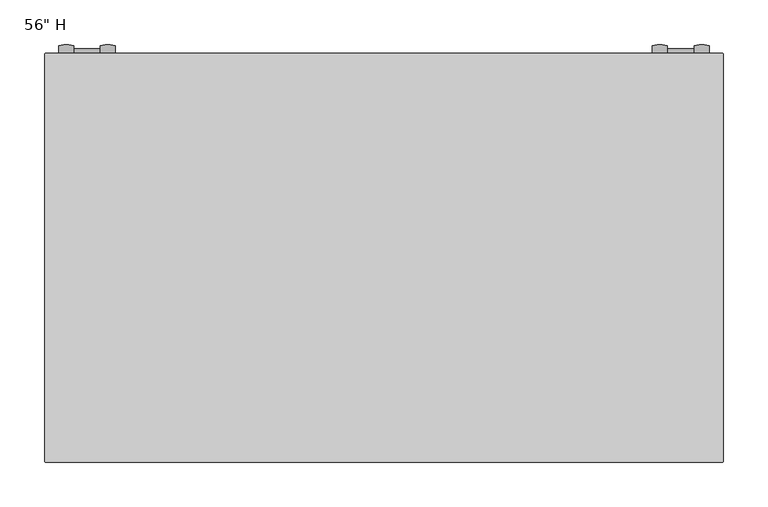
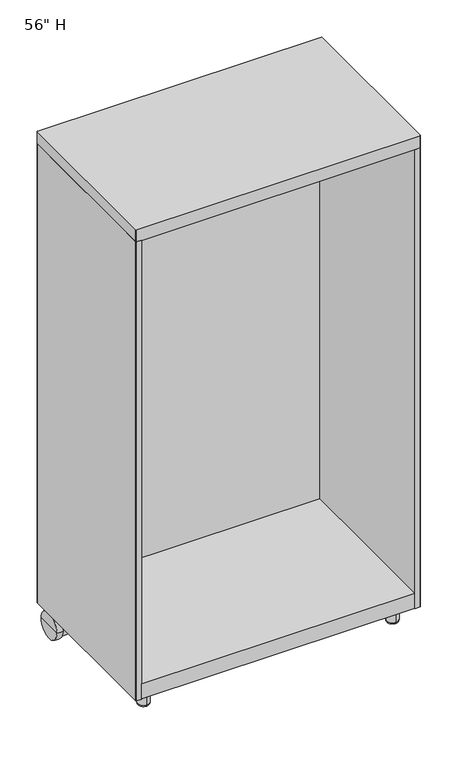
"""IFC4 building model written with IfcOpenShell, lengths in millimetres: furniture geometry."""

from ifc_helpers import new_model, si_unit, point, frame, frame_2d, origin, place, context, project, spatial, polyline, circle_curve, ellipse_curve, trimmed, segment, composite_curve, outline, extrude, source, transform, mapped, element, save
from ifc_brep_helpers import plane_surface, cylinder_surface, revolved_surface, advanced_brep


def furniture_f87ea544(model_context):
    return source(origin(), model_context, "Body", "SolidModel", [
        advanced_brep(
        [(-301.463296, -63.6717048, 37.3595315), (-301.463296, 8.8097722, 37.3595315), (-301.463296, -27.4309663, 37.3595315), (-318.2202446, -63.6717048, 37.3595315), (-318.2202446, 8.8097722, 37.3595315), (-318.2202446, -60.4950092, 37.3595315), (-318.2202446, 5.6330766, 37.3595315), (-348.2146314, -60.4950092, 37.3595315), (-348.2146314, 5.6330766, 37.3595315), (-348.2146314, -63.6717048, 37.3595315), (-348.2146314, 8.8097722, 37.3595315), (-364.9632967, -63.6717048, 37.3595315), (-364.9632967, 8.8097722, 37.3595315), (-364.9632967, -27.4309663, 37.3595315)],
        [
            (0, 1, circle_curve(frame((-301.463296, -27.4309663, 37.3595315), z_axis=(1.0, 0.0, 0.0), x_axis=(0.0, 1.0, 0.0)), 36.2407385)),
            (1, 2),
            (2, 0),
            (1, 0, circle_curve(frame((-301.463296, -27.4309663, 37.3595315), z_axis=(1.0, 0.0, 0.0), x_axis=(0.0, 1.0, 0.0)), 36.2407385)),
            (3, 4, circle_curve(frame((-318.2202446, -27.4309663, 37.3595315), z_axis=(1.0, 0.0, 0.0), x_axis=(0.0, 1.0, 0.0)), 36.2407385)),
            (4, 1, circle_curve(frame((-309.8417703, -18.4450572, 37.3595315), z_axis=(0.0, 0.0, -1.0), x_axis=(-1.0, 0.0, 0.0)), 28.5135855)),
            (0, 3, circle_curve(frame((-309.8417703, -36.4168754, 37.3595315), z_axis=(0.0, 0.0, -1.0), x_axis=(-1.0, 0.0, 0.0)), 28.5135855)),
            (4, 3, circle_curve(frame((-318.2202446, -27.4309663, 37.3595315), z_axis=(1.0, 0.0, 0.0), x_axis=(0.0, 1.0, 0.0)), 36.2407385)),
            (5, 6, circle_curve(frame((-318.2202446, -27.4309663, 37.3595315), z_axis=(1.0, 0.0, 0.0), x_axis=(0.0, 1.0, 0.0)), 33.0640429)),
            (6, 4),
            (3, 5),
            (6, 5, circle_curve(frame((-318.2202446, -27.4309663, 37.3595315), z_axis=(1.0, 0.0, 0.0), x_axis=(0.0, 1.0, 0.0)), 33.0640429)),
            (7, 8, circle_curve(frame((-348.2146314, -27.4309663, 37.3595315), z_axis=(1.0, 0.0, 0.0), x_axis=(0.0, 1.0, 0.0)), 33.0640429)),
            (8, 6),
            (5, 7),
            (8, 7, circle_curve(frame((-348.2146314, -27.4309663, 37.3595315), z_axis=(1.0, 0.0, 0.0), x_axis=(0.0, 1.0, 0.0)), 33.0640429)),
            (9, 10, circle_curve(frame((-348.2146314, -27.4309663, 37.3595315), z_axis=(1.0, 0.0, 0.0), x_axis=(0.0, 1.0, 0.0)), 36.2407385)),
            (10, 8),
            (7, 9),
            (10, 9, circle_curve(frame((-348.2146314, -27.4309663, 37.3595315), z_axis=(1.0, 0.0, 0.0), x_axis=(0.0, 1.0, 0.0)), 36.2407385)),
            (11, 12, circle_curve(frame((-364.9632967, -27.4309663, 37.3595315), z_axis=(1.0, 0.0, 0.0), x_axis=(0.0, 1.0, 0.0)), 36.2407385)),
            (12, 10, circle_curve(frame((-356.5889641, -18.4035167, 37.3595315), z_axis=(0.0, 0.0, -1.0), x_axis=(-1.0, 0.0, 0.0)), 28.472663)),
            (9, 11, circle_curve(frame((-356.5889641, -36.4584159, 37.3595315), z_axis=(0.0, 0.0, -1.0), x_axis=(-1.0, 0.0, 0.0)), 28.472663)),
            (12, 11, circle_curve(frame((-364.9632967, -27.4309663, 37.3595315), z_axis=(1.0, 0.0, 0.0), x_axis=(0.0, 1.0, 0.0)), 36.2407385)),
            (13, 12),
            (11, 13),
        ],
        [
            plane_surface(frame((-301.463296, -27.4309663, 37.3595315), z_axis=(1.0, 0.0, 0.0), x_axis=(0.0, 1.0, 0.0))),
            revolved_surface(trimmed(ellipse_curve(frame((-309.8417703, -18.4450572, 37.3595315), z_axis=(0.0, 0.0, 1.0), x_axis=(-1.0, 0.0, 0.0)), 28.5135855, 28.5135855), [point((-301.463296, 8.8097722, 37.3595315))], [point((-318.2202446, 8.8097722, 37.3595315))], True, "CARTESIAN"), (-325.591828, -27.4309663, 37.3595315), (-1.0, 0.0, 0.0)),
            plane_surface(frame((-318.2202446, -27.4309663, 37.3595315), z_axis=(-1.0, 0.0, 0.0), x_axis=(0.0, 1.0, 0.0))),
            cylinder_surface(frame((-325.591828, -27.4309663, 37.3595315), z_axis=(-1.0, 0.0, 0.0), x_axis=(0.0, 1.0, 0.0)), 33.0640429),
            plane_surface(frame((-348.2146314, -27.4309663, 37.3595315), z_axis=(1.0, 0.0, 0.0), x_axis=(0.0, 1.0, 0.0))),
            revolved_surface(trimmed(ellipse_curve(frame((-356.5889641, -18.4035167, 37.3595315), z_axis=(0.0, 0.0, 1.0), x_axis=(-1.0, 0.0, 0.0)), 28.472663, 28.472663), [point((-348.2146314, 8.8097722, 37.3595315))], [point((-364.9632967, 8.8097722, 37.3595315))], True, "CARTESIAN"), (-325.591828, -27.4309663, 37.3595315), (-1.0, 0.0, 0.0)),
            plane_surface(frame((-364.9632967, -27.4309663, 37.3595315), z_axis=(-1.0, 0.0, 0.0), x_axis=(0.0, 1.0, 0.0))),
        ],
        [
            (0, [[1, 2, 3]]),
            (0, [[4, -3, -2]]),
            (1, [[5, 6, -1, 7]]),
            (1, [[8, -7, -4, -6]]),
            (2, [[9, 10, -5, 11]]),
            (2, [[12, -11, -8, -10]]),
            (3, [[13, 14, -9, 15]]),
            (3, [[16, -15, -12, -14]]),
            (4, [[17, 18, -13, 19]]),
            (4, [[20, -19, -16, -18]]),
            (5, [[21, 22, -17, 23]]),
            (5, [[24, -23, -20, -22]]),
            (6, [[25, -21, 26]]),
            (6, [[-26, -24, -25]]),
        ],
    ),
        advanced_brep(
        [(364.7809449, -63.6717048, 37.3595315), (364.7809449, 8.8097722, 37.3595315), (364.7809449, -27.4309663, 37.3595315), (348.0239963, -63.6717048, 37.3595315), (348.0239963, 8.8097722, 37.3595315), (348.0239963, -60.4950092, 37.3595315), (348.0239963, 5.6330766, 37.3595315), (318.0296095, -60.4950092, 37.3595315), (318.0296095, 5.6330766, 37.3595315), (318.0296095, -63.6717048, 37.3595315), (318.0296095, 8.8097722, 37.3595315), (301.2809442, -63.6717048, 37.3595315), (301.2809442, 8.8097722, 37.3595315), (301.2809442, -27.4309663, 37.3595315)],
        [
            (0, 1, circle_curve(frame((364.7809449, -27.4309663, 37.3595315), z_axis=(1.0, 0.0, 0.0), x_axis=(0.0, 1.0, 0.0)), 36.2407385)),
            (1, 2),
            (2, 0),
            (1, 0, circle_curve(frame((364.7809449, -27.4309663, 37.3595315), z_axis=(1.0, 0.0, 0.0), x_axis=(0.0, 1.0, 0.0)), 36.2407385)),
            (3, 4, circle_curve(frame((348.0239963, -27.4309663, 37.3595315), z_axis=(1.0, 0.0, 0.0), x_axis=(0.0, 1.0, 0.0)), 36.2407385)),
            (4, 1, circle_curve(frame((356.4024706, -18.4450572, 37.3595315), z_axis=(0.0, 0.0, -1.0), x_axis=(-1.0, 0.0, 0.0)), 28.5135855)),
            (0, 3, circle_curve(frame((356.4024706, -36.4168754, 37.3595315), z_axis=(0.0, 0.0, -1.0), x_axis=(-1.0, 0.0, 0.0)), 28.5135855)),
            (4, 3, circle_curve(frame((348.0239963, -27.4309663, 37.3595315), z_axis=(1.0, 0.0, 0.0), x_axis=(0.0, 1.0, 0.0)), 36.2407385)),
            (5, 6, circle_curve(frame((348.0239963, -27.4309663, 37.3595315), z_axis=(1.0, 0.0, 0.0), x_axis=(0.0, 1.0, 0.0)), 33.0640429)),
            (6, 4),
            (3, 5),
            (6, 5, circle_curve(frame((348.0239963, -27.4309663, 37.3595315), z_axis=(1.0, 0.0, 0.0), x_axis=(0.0, 1.0, 0.0)), 33.0640429)),
            (7, 8, circle_curve(frame((318.0296095, -27.4309663, 37.3595315), z_axis=(1.0, 0.0, 0.0), x_axis=(0.0, 1.0, 0.0)), 33.0640429)),
            (8, 6),
            (5, 7),
            (8, 7, circle_curve(frame((318.0296095, -27.4309663, 37.3595315), z_axis=(1.0, 0.0, 0.0), x_axis=(0.0, 1.0, 0.0)), 33.0640429)),
            (9, 10, circle_curve(frame((318.0296095, -27.4309663, 37.3595315), z_axis=(1.0, 0.0, 0.0), x_axis=(0.0, 1.0, 0.0)), 36.2407385)),
            (10, 8),
            (7, 9),
            (10, 9, circle_curve(frame((318.0296095, -27.4309663, 37.3595315), z_axis=(1.0, 0.0, 0.0), x_axis=(0.0, 1.0, 0.0)), 36.2407385)),
            (11, 12, circle_curve(frame((301.2809442, -27.4309663, 37.3595315), z_axis=(1.0, 0.0, 0.0), x_axis=(0.0, 1.0, 0.0)), 36.2407385)),
            (12, 10, circle_curve(frame((309.6552768, -18.4035167, 37.3595315), z_axis=(0.0, 0.0, -1.0), x_axis=(-1.0, 0.0, 0.0)), 28.472663)),
            (9, 11, circle_curve(frame((309.6552768, -36.4584159, 37.3595315), z_axis=(0.0, 0.0, -1.0), x_axis=(-1.0, 0.0, 0.0)), 28.472663)),
            (12, 11, circle_curve(frame((301.2809442, -27.4309663, 37.3595315), z_axis=(1.0, 0.0, 0.0), x_axis=(0.0, 1.0, 0.0)), 36.2407385)),
            (13, 12),
            (11, 13),
        ],
        [
            plane_surface(frame((364.7809449, -27.4309663, 37.3595315), z_axis=(1.0, 0.0, 0.0), x_axis=(0.0, 1.0, 0.0))),
            revolved_surface(trimmed(ellipse_curve(frame((356.4024706, -18.4450572, 37.3595315), z_axis=(0.0, 0.0, 1.0), x_axis=(-1.0, 0.0, 0.0)), 28.5135855, 28.5135855), [point((364.7809449, 8.8097722, 37.3595315))], [point((348.0239963, 8.8097722, 37.3595315))], True, "CARTESIAN"), (340.6524129, -27.4309663, 37.3595315), (-1.0, 0.0, 0.0)),
            plane_surface(frame((348.0239963, -27.4309663, 37.3595315), z_axis=(-1.0, 0.0, 0.0), x_axis=(0.0, 1.0, 0.0))),
            cylinder_surface(frame((340.6524129, -27.4309663, 37.3595315), z_axis=(-1.0, 0.0, 0.0), x_axis=(0.0, 1.0, 0.0)), 33.0640429),
            plane_surface(frame((318.0296095, -27.4309663, 37.3595315), z_axis=(1.0, 0.0, 0.0), x_axis=(0.0, 1.0, 0.0))),
            revolved_surface(trimmed(ellipse_curve(frame((309.6552768, -18.4035167, 37.3595315), z_axis=(0.0, 0.0, 1.0), x_axis=(-1.0, 0.0, 0.0)), 28.472663, 28.472663), [point((318.0296095, 8.8097722, 37.3595315))], [point((301.2809442, 8.8097722, 37.3595315))], True, "CARTESIAN"), (340.6524129, -27.4309663, 37.3595315), (-1.0, 0.0, 0.0)),
            plane_surface(frame((301.2809442, -27.4309663, 37.3595315), z_axis=(-1.0, 0.0, 0.0), x_axis=(0.0, 1.0, 0.0))),
        ],
        [
            (0, [[1, 2, 3]]),
            (0, [[4, -3, -2]]),
            (1, [[5, 6, -1, 7]]),
            (1, [[8, -7, -4, -6]]),
            (2, [[9, 10, -5, 11]]),
            (2, [[12, -11, -8, -10]]),
            (3, [[13, 14, -9, 15]]),
            (3, [[16, -15, -12, -14]]),
            (4, [[17, 18, -13, 19]]),
            (4, [[20, -19, -16, -18]]),
            (5, [[21, 22, -17, 23]]),
            (5, [[24, -23, -20, -22]]),
            (6, [[25, -21, 26]]),
            (6, [[-26, -24, -25]]),
        ],
    ),
        extrude(outline(composite_curve([segment(polyline([(365.1997396, -458.7406421), (365.1997396, 0.0), (379.9085915, 0.0)]), True, "CONTINUOUS"), segment(trimmed(circle_curve(frame_2d((379.9085915, -1.0914085)), 1.0914085), [point((379.9085915, 0.0))], [point((381.0, -1.0914085))], False, "CARTESIAN"), True, "CONTINUOUS"), segment(polyline([(381.0, -1.0914085), (381.0, -457.3468103)]), True, "CONTINUOUS"), segment(trimmed(circle_curve(frame_2d((379.6061682, -457.3468103)), 1.3938318), [point((381.0, -457.3468103))], [point((379.6061682, -458.7406421))], False, "CARTESIAN"), True, "CONTINUOUS"), segment(polyline([(379.6061682, -458.7406421), (365.1997396, -458.7406421)]), True, "CONTINUOUS")], self_intersect=False)), frame((0.0, 0.0, 90.857372), z_axis=(0.0, 0.0, 1.0), x_axis=(1.0, 0.0, 0.0)), (0.0, 0.0, 1.0), 1296.7641524),
        extrude(outline(composite_curve([segment(polyline([(-312.5986224, -440.6568405), (-353.0338836, -440.6568405)]), True, "CONTINUOUS"), segment(trimmed(circle_curve(frame_2d((-353.0338836, -429.7973814)), 10.8594591), [point((-353.0338836, -440.6568405))], [point((-363.8933426, -429.7973814))], False, "CARTESIAN"), True, "CONTINUOUS"), segment(polyline([(-363.8933426, -429.7973814), (-363.8933426, -393.0796464)]), True, "CONTINUOUS"), segment(trimmed(circle_curve(frame_2d((-351.1933426, -393.0796464)), 12.7), [point((-363.8933426, -393.0796464))], [point((-351.1933426, -380.3796464))], False, "CARTESIAN"), True, "CONTINUOUS"), segment(polyline([(-351.1933426, -380.3796464), (-316.1278694, -380.3796464)]), True, "CONTINUOUS"), segment(trimmed(circle_curve(frame_2d((-316.1278694, -393.0796464)), 12.7), [point((-316.1278694, -380.3796464))], [point((-303.4278694, -393.0796464))], False, "CARTESIAN"), True, "CONTINUOUS"), segment(polyline([(-303.4278694, -393.0796464), (-303.4278694, -431.4860874)]), True, "CONTINUOUS"), segment(trimmed(circle_curve(frame_2d((-312.5986224, -431.4860874)), 9.1707531), [point((-303.4278694, -431.4860874))], [point((-312.5986224, -440.6568405))], False, "CARTESIAN"), True, "CONTINUOUS")], self_intersect=False)), frame((0.0, 0.0, 88.0012691), z_axis=(0.0, 0.0, 1.0), x_axis=(1.0, 0.0, 0.0)), (0.0, 0.0, 1.0), 2.8561029),
        advanced_brep(
        [(-333.4021566, -395.1035296, 88.0012691), (-333.4021566, -426.3711705, 88.0012691), (-333.4021566, -410.7373501, 88.0012691), (-333.4021566, -401.4692087, 84.1912637), (-333.4021566, -420.0054914, 84.1912637), (-333.4021566, -403.7726725, 84.1912637), (-333.4021566, -417.7020276, 84.1912637), (-333.4021566, -403.7726725, 79.898675), (-333.4021566, -417.7020276, 79.898675), (-333.4021566, -407.1686498, 79.898675), (-333.4021566, -414.3060503, 79.898675), (-333.4021566, -407.1686498, 78.8669248), (-333.4021566, -414.3060503, 78.8669248), (-333.4021566, -395.1035296, 78.8669248), (-333.4021566, -426.3711705, 78.8669248), (-333.4021566, -395.1035296, 43.7095315), (-333.4021566, -426.3711705, 43.7095315), (-333.4021566, -401.4535296, 37.3595315), (-333.4021566, -420.0211705, 37.3595315), (-333.4021566, -410.7373501, 37.3595315)],
        [
            (0, 1, circle_curve(frame((-333.4021566, -410.7373501, 88.0012691), z_axis=(0.0, 0.0, 1.0), x_axis=(0.0, -1.0, 0.0)), 15.6338204)),
            (1, 2),
            (2, 0),
            (1, 0, circle_curve(frame((-333.4021566, -410.7373501, 88.0012691), z_axis=(0.0, 0.0, 1.0), x_axis=(0.0, -1.0, 0.0)), 15.6338204)),
            (3, 4, circle_curve(frame((-333.4021566, -410.7373501, 84.1912637), z_axis=(0.0, 0.0, 1.0), x_axis=(0.0, -1.0, 0.0)), 9.2681413)),
            (4, 1),
            (0, 3),
            (4, 3, circle_curve(frame((-333.4021566, -410.7373501, 84.1912637), z_axis=(0.0, 0.0, 1.0), x_axis=(0.0, -1.0, 0.0)), 9.2681413)),
            (5, 6, circle_curve(frame((-333.4021566, -410.7373501, 84.1912637), z_axis=(0.0, 0.0, 1.0), x_axis=(0.0, -1.0, 0.0)), 6.9646775)),
            (6, 4),
            (3, 5),
            (6, 5, circle_curve(frame((-333.4021566, -410.7373501, 84.1912637), z_axis=(0.0, 0.0, 1.0), x_axis=(0.0, -1.0, 0.0)), 6.9646775)),
            (7, 8, circle_curve(frame((-333.4021566, -410.7373501, 79.898675), z_axis=(0.0, 0.0, 1.0), x_axis=(0.0, -1.0, 0.0)), 6.9646775)),
            (8, 6, circle_curve(frame((-333.4021566, -415.6994524, 82.0449694), z_axis=(-1.0, 0.0, 0.0), x_axis=(0.0, 1.0, 0.0)), 2.9354534)),
            (5, 7, circle_curve(frame((-333.4021566, -405.7752478, 82.0449694), z_axis=(-1.0, 0.0, 0.0), x_axis=(0.0, -1.0, 0.0)), 2.9354534)),
            (8, 7, circle_curve(frame((-333.4021566, -410.7373501, 79.898675), z_axis=(0.0, 0.0, 1.0), x_axis=(0.0, -1.0, 0.0)), 6.9646775)),
            (9, 10, circle_curve(frame((-333.4021566, -410.7373501, 79.898675), z_axis=(0.0, 0.0, 1.0), x_axis=(0.0, -1.0, 0.0)), 3.5687002)),
            (10, 8),
            (7, 9),
            (10, 9, circle_curve(frame((-333.4021566, -410.7373501, 79.898675), z_axis=(0.0, 0.0, 1.0), x_axis=(0.0, -1.0, 0.0)), 3.5687002)),
            (11, 12, circle_curve(frame((-333.4021566, -410.7373501, 78.8669248), z_axis=(0.0, 0.0, 1.0), x_axis=(0.0, -1.0, 0.0)), 3.5687002)),
            (12, 10),
            (9, 11),
            (12, 11, circle_curve(frame((-333.4021566, -410.7373501, 78.8669248), z_axis=(0.0, 0.0, 1.0), x_axis=(0.0, -1.0, 0.0)), 3.5687002)),
            (13, 14, circle_curve(frame((-333.4021566, -410.7373501, 78.8669248), z_axis=(0.0, 0.0, 1.0), x_axis=(0.0, -1.0, 0.0)), 15.6338204)),
            (14, 12),
            (11, 13),
            (14, 13, circle_curve(frame((-333.4021566, -410.7373501, 78.8669248), z_axis=(0.0, 0.0, 1.0), x_axis=(0.0, -1.0, 0.0)), 15.6338204)),
            (15, 16, circle_curve(frame((-333.4021566, -410.7373501, 43.7095315), z_axis=(0.0, 0.0, 1.0), x_axis=(0.0, -1.0, 0.0)), 15.6338204)),
            (16, 14),
            (13, 15),
            (16, 15, circle_curve(frame((-333.4021566, -410.7373501, 43.7095315), z_axis=(0.0, 0.0, 1.0), x_axis=(0.0, -1.0, 0.0)), 15.6338204)),
            (17, 18, circle_curve(frame((-333.4021566, -410.7373501, 37.3595315), z_axis=(0.0, 0.0, 1.0), x_axis=(0.0, -1.0, 0.0)), 9.2838204)),
            (18, 16, circle_curve(frame((-333.4021566, -420.0211705, 43.7095315), z_axis=(-1.0, 0.0, 0.0), x_axis=(0.0, 1.0, 0.0)), 6.35)),
            (15, 17, circle_curve(frame((-333.4021566, -401.4535296, 43.7095315), z_axis=(-1.0, 0.0, 0.0), x_axis=(0.0, -1.0, 0.0)), 6.35)),
            (18, 17, circle_curve(frame((-333.4021566, -410.7373501, 37.3595315), z_axis=(0.0, 0.0, 1.0), x_axis=(0.0, -1.0, 0.0)), 9.2838204)),
            (19, 18),
            (17, 19),
        ],
        [
            plane_surface(frame((-333.4021566, -410.7373501, 88.0012691), z_axis=(0.0, 0.0, 1.0), x_axis=(0.0, -1.0, 0.0))),
            revolved_surface(polyline([(-333.4021566, -426.3711705, 88.0012691), (-333.4021566, -420.0054914, 84.1912637)]), (-333.4021566, -410.7373501, 88.0012691), (0.0, 0.0, -1.0)),
            plane_surface(frame((-333.4021566, -410.7373501, 84.1912637), z_axis=(0.0, 0.0, -1.0), x_axis=(0.0, -1.0, 0.0))),
            revolved_surface(trimmed(ellipse_curve(frame((-333.4021566, -415.6994524, 82.0449694), z_axis=(1.0, 0.0, 0.0), x_axis=(0.0, 1.0, 0.0)), 2.9354534, 2.9354534), [point((-333.4021566, -417.7020276, 84.1912637))], [point((-333.4021566, -417.7020276, 79.898675))], True, "CARTESIAN"), (-333.4021566, -410.7373501, 88.0012691), (0.0, 0.0, -1.0)),
            plane_surface(frame((-333.4021566, -410.7373501, 79.898675), z_axis=(0.0, 0.0, -1.0), x_axis=(0.0, -1.0, 0.0))),
            cylinder_surface(frame((-333.4021566, -410.7373501, 88.0012691), z_axis=(0.0, 0.0, -1.0), x_axis=(0.0, -1.0, 0.0)), 3.5687002),
            plane_surface(frame((-333.4021566, -410.7373501, 78.8669248), z_axis=(0.0, 0.0, 1.0), x_axis=(0.0, -1.0, 0.0))),
            cylinder_surface(frame((-333.4021566, -410.7373501, 88.0012691), z_axis=(0.0, 0.0, -1.0), x_axis=(0.0, -1.0, 0.0)), 15.6338204),
            revolved_surface(trimmed(ellipse_curve(frame((-333.4021566, -420.0211705, 43.7095315), z_axis=(1.0, 0.0, 0.0), x_axis=(0.0, 1.0, 0.0)), 6.35, 6.35), [point((-333.4021566, -426.3711705, 43.7095315))], [point((-333.4021566, -420.0211705, 37.3595315))], True, "CARTESIAN"), (-333.4021566, -410.7373501, 88.0012691), (0.0, 0.0, -1.0)),
            plane_surface(frame((-333.4021566, -410.7373501, 37.3595315), z_axis=(0.0, 0.0, -1.0), x_axis=(0.0, -1.0, 0.0))),
        ],
        [
            (0, [[1, 2, 3]]),
            (0, [[4, -3, -2]]),
            (1, [[5, 6, -1, 7]]),
            (1, [[8, -7, -4, -6]]),
            (2, [[9, 10, -5, 11]]),
            (2, [[12, -11, -8, -10]]),
            (3, [[13, 14, -9, 15]]),
            (3, [[16, -15, -12, -14]]),
            (4, [[17, 18, -13, 19]]),
            (4, [[20, -19, -16, -18]]),
            (5, [[21, 22, -17, 23]]),
            (5, [[24, -23, -20, -22]]),
            (6, [[25, 26, -21, 27]]),
            (6, [[28, -27, -24, -26]]),
            (7, [[29, 30, -25, 31]]),
            (7, [[32, -31, -28, -30]]),
            (8, [[33, 34, -29, 35]]),
            (8, [[36, -35, -32, -34]]),
            (9, [[37, -33, 38]]),
            (9, [[-38, -36, -37]]),
        ],
    ),
        extrude(outline(composite_curve([segment(polyline([(353.6456185, -440.6568405), (313.2103573, -440.6568405)]), True, "CONTINUOUS"), segment(trimmed(circle_curve(frame_2d((313.2103573, -429.7973814)), 10.8594591), [point((313.2103573, -440.6568405))], [point((302.3508983, -429.7973814))], False, "CARTESIAN"), True, "CONTINUOUS"), segment(polyline([(302.3508983, -429.7973814), (302.3508983, -393.0796464)]), True, "CONTINUOUS"), segment(trimmed(circle_curve(frame_2d((315.0508983, -393.0796464)), 12.7), [point((302.3508983, -393.0796464))], [point((315.0508983, -380.3796464))], False, "CARTESIAN"), True, "CONTINUOUS"), segment(polyline([(315.0508983, -380.3796464), (350.1163715, -380.3796464)]), True, "CONTINUOUS"), segment(trimmed(circle_curve(frame_2d((350.1163715, -393.0796464)), 12.7), [point((350.1163715, -380.3796464))], [point((362.8163715, -393.0796464))], False, "CARTESIAN"), True, "CONTINUOUS"), segment(polyline([(362.8163715, -393.0796464), (362.8163715, -431.4860874)]), True, "CONTINUOUS"), segment(trimmed(circle_curve(frame_2d((353.6456185, -431.4860874)), 9.1707531), [point((362.8163715, -431.4860874))], [point((353.6456185, -440.6568405))], False, "CARTESIAN"), True, "CONTINUOUS")], self_intersect=False)), frame((0.0, 0.0, 88.0012691), z_axis=(0.0, 0.0, 1.0), x_axis=(1.0, 0.0, 0.0)), (0.0, 0.0, 1.0), 2.8561029),
        advanced_brep(
        [(332.8420843, -395.1035296, 88.0012691), (332.8420843, -426.3711705, 88.0012691), (332.8420843, -410.7373501, 88.0012691), (332.8420843, -401.4692087, 84.1912637), (332.8420843, -420.0054914, 84.1912637), (332.8420843, -403.7726725, 84.1912637), (332.8420843, -417.7020276, 84.1912637), (332.8420843, -403.7726725, 79.898675), (332.8420843, -417.7020276, 79.898675), (332.8420843, -407.1686498, 79.898675), (332.8420843, -414.3060503, 79.898675), (332.8420843, -407.1686498, 78.8669248), (332.8420843, -414.3060503, 78.8669248), (332.8420843, -395.1035296, 78.8669248), (332.8420843, -426.3711705, 78.8669248), (332.8420843, -395.1035296, 43.7095315), (332.8420843, -426.3711705, 43.7095315), (332.8420843, -401.4535296, 37.3595315), (332.8420843, -420.0211705, 37.3595315), (332.8420843, -410.7373501, 37.3595315)],
        [
            (0, 1, circle_curve(frame((332.8420843, -410.7373501, 88.0012691), z_axis=(0.0, 0.0, 1.0), x_axis=(0.0, -1.0, 0.0)), 15.6338204)),
            (1, 2),
            (2, 0),
            (1, 0, circle_curve(frame((332.8420843, -410.7373501, 88.0012691), z_axis=(0.0, 0.0, 1.0), x_axis=(0.0, -1.0, 0.0)), 15.6338204)),
            (3, 4, circle_curve(frame((332.8420843, -410.7373501, 84.1912637), z_axis=(0.0, 0.0, 1.0), x_axis=(0.0, -1.0, 0.0)), 9.2681413)),
            (4, 1),
            (0, 3),
            (4, 3, circle_curve(frame((332.8420843, -410.7373501, 84.1912637), z_axis=(0.0, 0.0, 1.0), x_axis=(0.0, -1.0, 0.0)), 9.2681413)),
            (5, 6, circle_curve(frame((332.8420843, -410.7373501, 84.1912637), z_axis=(0.0, 0.0, 1.0), x_axis=(0.0, -1.0, 0.0)), 6.9646775)),
            (6, 4),
            (3, 5),
            (6, 5, circle_curve(frame((332.8420843, -410.7373501, 84.1912637), z_axis=(0.0, 0.0, 1.0), x_axis=(0.0, -1.0, 0.0)), 6.9646775)),
            (7, 8, circle_curve(frame((332.8420843, -410.7373501, 79.898675), z_axis=(0.0, 0.0, 1.0), x_axis=(0.0, -1.0, 0.0)), 6.9646775)),
            (8, 6, circle_curve(frame((332.8420843, -415.6994524, 82.0449694), z_axis=(-1.0, 0.0, 0.0), x_axis=(0.0, 1.0, 0.0)), 2.9354534)),
            (5, 7, circle_curve(frame((332.8420843, -405.7752478, 82.0449694), z_axis=(-1.0, 0.0, 0.0), x_axis=(0.0, -1.0, 0.0)), 2.9354534)),
            (8, 7, circle_curve(frame((332.8420843, -410.7373501, 79.898675), z_axis=(0.0, 0.0, 1.0), x_axis=(0.0, -1.0, 0.0)), 6.9646775)),
            (9, 10, circle_curve(frame((332.8420843, -410.7373501, 79.898675), z_axis=(0.0, 0.0, 1.0), x_axis=(0.0, -1.0, 0.0)), 3.5687002)),
            (10, 8),
            (7, 9),
            (10, 9, circle_curve(frame((332.8420843, -410.7373501, 79.898675), z_axis=(0.0, 0.0, 1.0), x_axis=(0.0, -1.0, 0.0)), 3.5687002)),
            (11, 12, circle_curve(frame((332.8420843, -410.7373501, 78.8669248), z_axis=(0.0, 0.0, 1.0), x_axis=(0.0, -1.0, 0.0)), 3.5687002)),
            (12, 10),
            (9, 11),
            (12, 11, circle_curve(frame((332.8420843, -410.7373501, 78.8669248), z_axis=(0.0, 0.0, 1.0), x_axis=(0.0, -1.0, 0.0)), 3.5687002)),
            (13, 14, circle_curve(frame((332.8420843, -410.7373501, 78.8669248), z_axis=(0.0, 0.0, 1.0), x_axis=(0.0, -1.0, 0.0)), 15.6338204)),
            (14, 12),
            (11, 13),
            (14, 13, circle_curve(frame((332.8420843, -410.7373501, 78.8669248), z_axis=(0.0, 0.0, 1.0), x_axis=(0.0, -1.0, 0.0)), 15.6338204)),
            (15, 16, circle_curve(frame((332.8420843, -410.7373501, 43.7095315), z_axis=(0.0, 0.0, 1.0), x_axis=(0.0, -1.0, 0.0)), 15.6338204)),
            (16, 14),
            (13, 15),
            (16, 15, circle_curve(frame((332.8420843, -410.7373501, 43.7095315), z_axis=(0.0, 0.0, 1.0), x_axis=(0.0, -1.0, 0.0)), 15.6338204)),
            (17, 18, circle_curve(frame((332.8420843, -410.7373501, 37.3595315), z_axis=(0.0, 0.0, 1.0), x_axis=(0.0, -1.0, 0.0)), 9.2838204)),
            (18, 16, circle_curve(frame((332.8420843, -420.0211705, 43.7095315), z_axis=(-1.0, 0.0, 0.0), x_axis=(0.0, 1.0, 0.0)), 6.35)),
            (15, 17, circle_curve(frame((332.8420843, -401.4535296, 43.7095315), z_axis=(-1.0, 0.0, 0.0), x_axis=(0.0, -1.0, 0.0)), 6.35)),
            (18, 17, circle_curve(frame((332.8420843, -410.7373501, 37.3595315), z_axis=(0.0, 0.0, 1.0), x_axis=(0.0, -1.0, 0.0)), 9.2838204)),
            (19, 18),
            (17, 19),
        ],
        [
            plane_surface(frame((332.8420843, -410.7373501, 88.0012691), z_axis=(0.0, 0.0, 1.0), x_axis=(0.0, -1.0, 0.0))),
            revolved_surface(polyline([(332.8420843, -426.3711705, 88.0012691), (332.8420843, -420.0054914, 84.1912637)]), (332.8420843, -410.7373501, 88.0012691), (0.0, 0.0, -1.0)),
            plane_surface(frame((332.8420843, -410.7373501, 84.1912637), z_axis=(0.0, 0.0, -1.0), x_axis=(0.0, -1.0, 0.0))),
            revolved_surface(trimmed(ellipse_curve(frame((332.8420843, -415.6994524, 82.0449694), z_axis=(1.0, 0.0, 0.0), x_axis=(0.0, 1.0, 0.0)), 2.9354534, 2.9354534), [point((332.8420843, -417.7020276, 84.1912637))], [point((332.8420843, -417.7020276, 79.898675))], True, "CARTESIAN"), (332.8420843, -410.7373501, 88.0012691), (0.0, 0.0, -1.0)),
            plane_surface(frame((332.8420843, -410.7373501, 79.898675), z_axis=(0.0, 0.0, -1.0), x_axis=(0.0, -1.0, 0.0))),
            cylinder_surface(frame((332.8420843, -410.7373501, 88.0012691), z_axis=(0.0, 0.0, -1.0), x_axis=(0.0, -1.0, 0.0)), 3.5687002),
            plane_surface(frame((332.8420843, -410.7373501, 78.8669248), z_axis=(0.0, 0.0, 1.0), x_axis=(0.0, -1.0, 0.0))),
            cylinder_surface(frame((332.8420843, -410.7373501, 88.0012691), z_axis=(0.0, 0.0, -1.0), x_axis=(0.0, -1.0, 0.0)), 15.6338204),
            revolved_surface(trimmed(ellipse_curve(frame((332.8420843, -420.0211705, 43.7095315), z_axis=(1.0, 0.0, 0.0), x_axis=(0.0, 1.0, 0.0)), 6.35, 6.35), [point((332.8420843, -426.3711705, 43.7095315))], [point((332.8420843, -420.0211705, 37.3595315))], True, "CARTESIAN"), (332.8420843, -410.7373501, 88.0012691), (0.0, 0.0, -1.0)),
            plane_surface(frame((332.8420843, -410.7373501, 37.3595315), z_axis=(0.0, 0.0, -1.0), x_axis=(0.0, -1.0, 0.0))),
        ],
        [
            (0, [[1, 2, 3]]),
            (0, [[4, -3, -2]]),
            (1, [[5, 6, -1, 7]]),
            (1, [[8, -7, -4, -6]]),
            (2, [[9, 10, -5, 11]]),
            (2, [[12, -11, -8, -10]]),
            (3, [[13, 14, -9, 15]]),
            (3, [[16, -15, -12, -14]]),
            (4, [[17, 18, -13, 19]]),
            (4, [[20, -19, -16, -18]]),
            (5, [[21, 22, -17, 23]]),
            (5, [[24, -23, -20, -22]]),
            (6, [[25, 26, -21, 27]]),
            (6, [[28, -27, -24, -26]]),
            (7, [[29, 30, -25, 31]]),
            (7, [[32, -31, -28, -30]]),
            (8, [[33, 34, -29, 35]]),
            (8, [[36, -35, -32, -34]]),
            (9, [[37, -33, 38]]),
            (9, [[-38, -36, -37]]),
        ],
    ),
        extrude(outline(composite_curve([segment(polyline([(-312.5986224, -79.1802312), (-353.0338836, -79.1802312)]), True, "CONTINUOUS"), segment(trimmed(circle_curve(frame_2d((-353.0338836, -68.3207721)), 10.8594591), [point((-353.0338836, -79.1802312))], [point((-363.8933426, -68.3207721))], False, "CARTESIAN"), True, "CONTINUOUS"), segment(polyline([(-363.8933426, -68.3207721), (-363.8933426, -31.6030371)]), True, "CONTINUOUS"), segment(trimmed(circle_curve(frame_2d((-351.1933426, -31.6030371)), 12.7), [point((-363.8933426, -31.6030371))], [point((-351.1933426, -18.9030371))], False, "CARTESIAN"), True, "CONTINUOUS"), segment(polyline([(-351.1933426, -18.9030371), (-316.1278694, -18.9030371)]), True, "CONTINUOUS"), segment(trimmed(circle_curve(frame_2d((-316.1278694, -31.6030371)), 12.7), [point((-316.1278694, -18.9030371))], [point((-303.4278694, -31.6030371))], False, "CARTESIAN"), True, "CONTINUOUS"), segment(polyline([(-303.4278694, -31.6030371), (-303.4278694, -70.0094781)]), True, "CONTINUOUS"), segment(trimmed(circle_curve(frame_2d((-312.5986224, -70.0094781)), 9.1707531), [point((-303.4278694, -70.0094781))], [point((-312.5986224, -79.1802312))], False, "CARTESIAN"), True, "CONTINUOUS")], self_intersect=False)), frame((0.0, 0.0, 88.0012691), z_axis=(0.0, 0.0, 1.0), x_axis=(1.0, 0.0, 0.0)), (0.0, 0.0, 1.0), 2.8561029),
        advanced_brep(
        [(-333.4021566, -33.6269203, 88.0012691), (-333.4021566, -64.8945612, 88.0012691), (-333.4021566, -49.2607408, 88.0012691), (-333.4021566, -39.9925994, 84.1912637), (-333.4021566, -58.5288821, 84.1912637), (-333.4021566, -42.2960632, 84.1912637), (-333.4021566, -56.2254183, 84.1912637), (-333.4021566, -42.2960632, 79.898675), (-333.4021566, -56.2254183, 79.898675), (-333.4021566, -45.6920405, 79.898675), (-333.4021566, -52.829441, 79.898675), (-333.4021566, -45.6920405, 78.8669248), (-333.4021566, -52.829441, 78.8669248), (-333.4021566, -33.6269203, 78.8669248), (-333.4021566, -64.8945612, 78.8669248), (-333.4021566, -33.6269203, 43.7095315), (-333.4021566, -64.8945612, 43.7095315), (-333.4021566, -39.9769203, 37.3595315), (-333.4021566, -58.5445612, 37.3595315), (-333.4021566, -49.2607408, 37.3595315)],
        [
            (0, 1, circle_curve(frame((-333.4021566, -49.2607408, 88.0012691), z_axis=(0.0, 0.0, 1.0), x_axis=(0.0, -1.0, 0.0)), 15.6338204)),
            (1, 2),
            (2, 0),
            (1, 0, circle_curve(frame((-333.4021566, -49.2607408, 88.0012691), z_axis=(0.0, 0.0, 1.0), x_axis=(0.0, -1.0, 0.0)), 15.6338204)),
            (3, 4, circle_curve(frame((-333.4021566, -49.2607408, 84.1912637), z_axis=(0.0, 0.0, 1.0), x_axis=(0.0, -1.0, 0.0)), 9.2681413)),
            (4, 1),
            (0, 3),
            (4, 3, circle_curve(frame((-333.4021566, -49.2607408, 84.1912637), z_axis=(0.0, 0.0, 1.0), x_axis=(0.0, -1.0, 0.0)), 9.2681413)),
            (5, 6, circle_curve(frame((-333.4021566, -49.2607408, 84.1912637), z_axis=(0.0, 0.0, 1.0), x_axis=(0.0, -1.0, 0.0)), 6.9646775)),
            (6, 4),
            (3, 5),
            (6, 5, circle_curve(frame((-333.4021566, -49.2607408, 84.1912637), z_axis=(0.0, 0.0, 1.0), x_axis=(0.0, -1.0, 0.0)), 6.9646775)),
            (7, 8, circle_curve(frame((-333.4021566, -49.2607408, 79.898675), z_axis=(0.0, 0.0, 1.0), x_axis=(0.0, -1.0, 0.0)), 6.9646775)),
            (8, 6, circle_curve(frame((-333.4021566, -54.222843, 82.0449694), z_axis=(-1.0, 0.0, 0.0), x_axis=(0.0, 1.0, 0.0)), 2.9354534)),
            (5, 7, circle_curve(frame((-333.4021566, -44.2986385, 82.0449694), z_axis=(-1.0, 0.0, 0.0), x_axis=(0.0, -1.0, 0.0)), 2.9354534)),
            (8, 7, circle_curve(frame((-333.4021566, -49.2607408, 79.898675), z_axis=(0.0, 0.0, 1.0), x_axis=(0.0, -1.0, 0.0)), 6.9646775)),
            (9, 10, circle_curve(frame((-333.4021566, -49.2607408, 79.898675), z_axis=(0.0, 0.0, 1.0), x_axis=(0.0, -1.0, 0.0)), 3.5687002)),
            (10, 8),
            (7, 9),
            (10, 9, circle_curve(frame((-333.4021566, -49.2607408, 79.898675), z_axis=(0.0, 0.0, 1.0), x_axis=(0.0, -1.0, 0.0)), 3.5687002)),
            (11, 12, circle_curve(frame((-333.4021566, -49.2607408, 78.8669248), z_axis=(0.0, 0.0, 1.0), x_axis=(0.0, -1.0, 0.0)), 3.5687002)),
            (12, 10),
            (9, 11),
            (12, 11, circle_curve(frame((-333.4021566, -49.2607408, 78.8669248), z_axis=(0.0, 0.0, 1.0), x_axis=(0.0, -1.0, 0.0)), 3.5687002)),
            (13, 14, circle_curve(frame((-333.4021566, -49.2607408, 78.8669248), z_axis=(0.0, 0.0, 1.0), x_axis=(0.0, -1.0, 0.0)), 15.6338204)),
            (14, 12),
            (11, 13),
            (14, 13, circle_curve(frame((-333.4021566, -49.2607408, 78.8669248), z_axis=(0.0, 0.0, 1.0), x_axis=(0.0, -1.0, 0.0)), 15.6338204)),
            (15, 16, circle_curve(frame((-333.4021566, -49.2607408, 43.7095315), z_axis=(0.0, 0.0, 1.0), x_axis=(0.0, -1.0, 0.0)), 15.6338204)),
            (16, 14),
            (13, 15),
            (16, 15, circle_curve(frame((-333.4021566, -49.2607408, 43.7095315), z_axis=(0.0, 0.0, 1.0), x_axis=(0.0, -1.0, 0.0)), 15.6338204)),
            (17, 18, circle_curve(frame((-333.4021566, -49.2607408, 37.3595315), z_axis=(0.0, 0.0, 1.0), x_axis=(0.0, -1.0, 0.0)), 9.2838204)),
            (18, 16, circle_curve(frame((-333.4021566, -58.5445612, 43.7095315), z_axis=(-1.0, 0.0, 0.0), x_axis=(0.0, 1.0, 0.0)), 6.35)),
            (15, 17, circle_curve(frame((-333.4021566, -39.9769203, 43.7095315), z_axis=(-1.0, 0.0, 0.0), x_axis=(0.0, -1.0, 0.0)), 6.35)),
            (18, 17, circle_curve(frame((-333.4021566, -49.2607408, 37.3595315), z_axis=(0.0, 0.0, 1.0), x_axis=(0.0, -1.0, 0.0)), 9.2838204)),
            (19, 18),
            (17, 19),
        ],
        [
            plane_surface(frame((-333.4021566, -49.2607408, 88.0012691), z_axis=(0.0, 0.0, 1.0), x_axis=(0.0, -1.0, 0.0))),
            revolved_surface(polyline([(-333.4021566, -64.8945612, 88.0012691), (-333.4021566, -58.5288821, 84.1912637)]), (-333.4021566, -49.2607408, 88.0012691), (0.0, 0.0, -1.0)),
            plane_surface(frame((-333.4021566, -49.2607408, 84.1912637), z_axis=(0.0, 0.0, -1.0), x_axis=(0.0, -1.0, 0.0))),
            revolved_surface(trimmed(ellipse_curve(frame((-333.4021566, -54.222843, 82.0449694), z_axis=(1.0, 0.0, 0.0), x_axis=(0.0, 1.0, 0.0)), 2.9354534, 2.9354534), [point((-333.4021566, -56.2254183, 84.1912637))], [point((-333.4021566, -56.2254183, 79.898675))], True, "CARTESIAN"), (-333.4021566, -49.2607408, 88.0012691), (0.0, 0.0, -1.0)),
            plane_surface(frame((-333.4021566, -49.2607408, 79.898675), z_axis=(0.0, 0.0, -1.0), x_axis=(0.0, -1.0, 0.0))),
            cylinder_surface(frame((-333.4021566, -49.2607408, 88.0012691), z_axis=(0.0, 0.0, -1.0), x_axis=(0.0, -1.0, 0.0)), 3.5687002),
            plane_surface(frame((-333.4021566, -49.2607408, 78.8669248), z_axis=(0.0, 0.0, 1.0), x_axis=(0.0, -1.0, 0.0))),
            cylinder_surface(frame((-333.4021566, -49.2607408, 88.0012691), z_axis=(0.0, 0.0, -1.0), x_axis=(0.0, -1.0, 0.0)), 15.6338204),
            revolved_surface(trimmed(ellipse_curve(frame((-333.4021566, -58.5445612, 43.7095315), z_axis=(1.0, 0.0, 0.0), x_axis=(0.0, 1.0, 0.0)), 6.35, 6.35), [point((-333.4021566, -64.8945612, 43.7095315))], [point((-333.4021566, -58.5445612, 37.3595315))], True, "CARTESIAN"), (-333.4021566, -49.2607408, 88.0012691), (0.0, 0.0, -1.0)),
            plane_surface(frame((-333.4021566, -49.2607408, 37.3595315), z_axis=(0.0, 0.0, -1.0), x_axis=(0.0, -1.0, 0.0))),
        ],
        [
            (0, [[1, 2, 3]]),
            (0, [[4, -3, -2]]),
            (1, [[5, 6, -1, 7]]),
            (1, [[8, -7, -4, -6]]),
            (2, [[9, 10, -5, 11]]),
            (2, [[12, -11, -8, -10]]),
            (3, [[13, 14, -9, 15]]),
            (3, [[16, -15, -12, -14]]),
            (4, [[17, 18, -13, 19]]),
            (4, [[20, -19, -16, -18]]),
            (5, [[21, 22, -17, 23]]),
            (5, [[24, -23, -20, -22]]),
            (6, [[25, 26, -21, 27]]),
            (6, [[28, -27, -24, -26]]),
            (7, [[29, 30, -25, 31]]),
            (7, [[32, -31, -28, -30]]),
            (8, [[33, 34, -29, 35]]),
            (8, [[36, -35, -32, -34]]),
            (9, [[37, -33, 38]]),
            (9, [[-38, -36, -37]]),
        ],
    ),
        extrude(outline(composite_curve([segment(polyline([(353.6456185, -79.1802312), (313.2103573, -79.1802312)]), True, "CONTINUOUS"), segment(trimmed(circle_curve(frame_2d((313.2103573, -68.3207721)), 10.8594591), [point((313.2103573, -79.1802312))], [point((302.3508983, -68.3207721))], False, "CARTESIAN"), True, "CONTINUOUS"), segment(polyline([(302.3508983, -68.3207721), (302.3508983, -31.6030371)]), True, "CONTINUOUS"), segment(trimmed(circle_curve(frame_2d((315.0508983, -31.6030371)), 12.7), [point((302.3508983, -31.6030371))], [point((315.0508983, -18.9030371))], False, "CARTESIAN"), True, "CONTINUOUS"), segment(polyline([(315.0508983, -18.9030371), (350.1163715, -18.9030371)]), True, "CONTINUOUS"), segment(trimmed(circle_curve(frame_2d((350.1163715, -31.6030371)), 12.7), [point((350.1163715, -18.9030371))], [point((362.8163715, -31.6030371))], False, "CARTESIAN"), True, "CONTINUOUS"), segment(polyline([(362.8163715, -31.6030371), (362.8163715, -70.0094781)]), True, "CONTINUOUS"), segment(trimmed(circle_curve(frame_2d((353.6456185, -70.0094781)), 9.1707531), [point((362.8163715, -70.0094781))], [point((353.6456185, -79.1802312))], False, "CARTESIAN"), True, "CONTINUOUS")], self_intersect=False)), frame((0.0, 0.0, 88.0012691), z_axis=(0.0, 0.0, 1.0), x_axis=(1.0, 0.0, 0.0)), (0.0, 0.0, 1.0), 2.8561029),
        advanced_brep(
        [(332.8420843, -33.6269203, 88.0012691), (332.8420843, -64.8945612, 88.0012691), (332.8420843, -49.2607408, 88.0012691), (332.8420843, -39.9925994, 84.1912637), (332.8420843, -58.5288821, 84.1912637), (332.8420843, -42.2960632, 84.1912637), (332.8420843, -56.2254183, 84.1912637), (332.8420843, -42.2960632, 79.898675), (332.8420843, -56.2254183, 79.898675), (332.8420843, -45.6920405, 79.898675), (332.8420843, -52.829441, 79.898675), (332.8420843, -45.6920405, 78.8669248), (332.8420843, -52.829441, 78.8669248), (332.8420843, -33.6269203, 78.8669248), (332.8420843, -64.8945612, 78.8669248), (332.8420843, -33.6269203, 43.7095315), (332.8420843, -64.8945612, 43.7095315), (332.8420843, -39.9769203, 37.3595315), (332.8420843, -58.5445612, 37.3595315), (332.8420843, -49.2607408, 37.3595315)],
        [
            (0, 1, circle_curve(frame((332.8420843, -49.2607408, 88.0012691), z_axis=(0.0, 0.0, 1.0), x_axis=(0.0, -1.0, 0.0)), 15.6338204)),
            (1, 2),
            (2, 0),
            (1, 0, circle_curve(frame((332.8420843, -49.2607408, 88.0012691), z_axis=(0.0, 0.0, 1.0), x_axis=(0.0, -1.0, 0.0)), 15.6338204)),
            (3, 4, circle_curve(frame((332.8420843, -49.2607408, 84.1912637), z_axis=(0.0, 0.0, 1.0), x_axis=(0.0, -1.0, 0.0)), 9.2681413)),
            (4, 1),
            (0, 3),
            (4, 3, circle_curve(frame((332.8420843, -49.2607408, 84.1912637), z_axis=(0.0, 0.0, 1.0), x_axis=(0.0, -1.0, 0.0)), 9.2681413)),
            (5, 6, circle_curve(frame((332.8420843, -49.2607408, 84.1912637), z_axis=(0.0, 0.0, 1.0), x_axis=(0.0, -1.0, 0.0)), 6.9646775)),
            (6, 4),
            (3, 5),
            (6, 5, circle_curve(frame((332.8420843, -49.2607408, 84.1912637), z_axis=(0.0, 0.0, 1.0), x_axis=(0.0, -1.0, 0.0)), 6.9646775)),
            (7, 8, circle_curve(frame((332.8420843, -49.2607408, 79.898675), z_axis=(0.0, 0.0, 1.0), x_axis=(0.0, -1.0, 0.0)), 6.9646775)),
            (8, 6, circle_curve(frame((332.8420843, -54.222843, 82.0449694), z_axis=(-1.0, 0.0, 0.0), x_axis=(0.0, 1.0, 0.0)), 2.9354534)),
            (5, 7, circle_curve(frame((332.8420843, -44.2986385, 82.0449694), z_axis=(-1.0, 0.0, 0.0), x_axis=(0.0, -1.0, 0.0)), 2.9354534)),
            (8, 7, circle_curve(frame((332.8420843, -49.2607408, 79.898675), z_axis=(0.0, 0.0, 1.0), x_axis=(0.0, -1.0, 0.0)), 6.9646775)),
            (9, 10, circle_curve(frame((332.8420843, -49.2607408, 79.898675), z_axis=(0.0, 0.0, 1.0), x_axis=(0.0, -1.0, 0.0)), 3.5687002)),
            (10, 8),
            (7, 9),
            (10, 9, circle_curve(frame((332.8420843, -49.2607408, 79.898675), z_axis=(0.0, 0.0, 1.0), x_axis=(0.0, -1.0, 0.0)), 3.5687002)),
            (11, 12, circle_curve(frame((332.8420843, -49.2607408, 78.8669248), z_axis=(0.0, 0.0, 1.0), x_axis=(0.0, -1.0, 0.0)), 3.5687002)),
            (12, 10),
            (9, 11),
            (12, 11, circle_curve(frame((332.8420843, -49.2607408, 78.8669248), z_axis=(0.0, 0.0, 1.0), x_axis=(0.0, -1.0, 0.0)), 3.5687002)),
            (13, 14, circle_curve(frame((332.8420843, -49.2607408, 78.8669248), z_axis=(0.0, 0.0, 1.0), x_axis=(0.0, -1.0, 0.0)), 15.6338204)),
            (14, 12),
            (11, 13),
            (14, 13, circle_curve(frame((332.8420843, -49.2607408, 78.8669248), z_axis=(0.0, 0.0, 1.0), x_axis=(0.0, -1.0, 0.0)), 15.6338204)),
            (15, 16, circle_curve(frame((332.8420843, -49.2607408, 43.7095315), z_axis=(0.0, 0.0, 1.0), x_axis=(0.0, -1.0, 0.0)), 15.6338204)),
            (16, 14),
            (13, 15),
            (16, 15, circle_curve(frame((332.8420843, -49.2607408, 43.7095315), z_axis=(0.0, 0.0, 1.0), x_axis=(0.0, -1.0, 0.0)), 15.6338204)),
            (17, 18, circle_curve(frame((332.8420843, -49.2607408, 37.3595315), z_axis=(0.0, 0.0, 1.0), x_axis=(0.0, -1.0, 0.0)), 9.2838204)),
            (18, 16, circle_curve(frame((332.8420843, -58.5445612, 43.7095315), z_axis=(-1.0, 0.0, 0.0), x_axis=(0.0, 1.0, 0.0)), 6.35)),
            (15, 17, circle_curve(frame((332.8420843, -39.9769203, 43.7095315), z_axis=(-1.0, 0.0, 0.0), x_axis=(0.0, -1.0, 0.0)), 6.35)),
            (18, 17, circle_curve(frame((332.8420843, -49.2607408, 37.3595315), z_axis=(0.0, 0.0, 1.0), x_axis=(0.0, -1.0, 0.0)), 9.2838204)),
            (19, 18),
            (17, 19),
        ],
        [
            plane_surface(frame((332.8420843, -49.2607408, 88.0012691), z_axis=(0.0, 0.0, 1.0), x_axis=(0.0, -1.0, 0.0))),
            revolved_surface(polyline([(332.8420843, -64.8945612, 88.0012691), (332.8420843, -58.5288821, 84.1912637)]), (332.8420843, -49.2607408, 88.0012691), (0.0, 0.0, -1.0)),
            plane_surface(frame((332.8420843, -49.2607408, 84.1912637), z_axis=(0.0, 0.0, -1.0), x_axis=(0.0, -1.0, 0.0))),
            revolved_surface(trimmed(ellipse_curve(frame((332.8420843, -54.222843, 82.0449694), z_axis=(1.0, 0.0, 0.0), x_axis=(0.0, 1.0, 0.0)), 2.9354534, 2.9354534), [point((332.8420843, -56.2254183, 84.1912637))], [point((332.8420843, -56.2254183, 79.898675))], True, "CARTESIAN"), (332.8420843, -49.2607408, 88.0012691), (0.0, 0.0, -1.0)),
            plane_surface(frame((332.8420843, -49.2607408, 79.898675), z_axis=(0.0, 0.0, -1.0), x_axis=(0.0, -1.0, 0.0))),
            cylinder_surface(frame((332.8420843, -49.2607408, 88.0012691), z_axis=(0.0, 0.0, -1.0), x_axis=(0.0, -1.0, 0.0)), 3.5687002),
            plane_surface(frame((332.8420843, -49.2607408, 78.8669248), z_axis=(0.0, 0.0, 1.0), x_axis=(0.0, -1.0, 0.0))),
            cylinder_surface(frame((332.8420843, -49.2607408, 88.0012691), z_axis=(0.0, 0.0, -1.0), x_axis=(0.0, -1.0, 0.0)), 15.6338204),
            revolved_surface(trimmed(ellipse_curve(frame((332.8420843, -58.5445612, 43.7095315), z_axis=(1.0, 0.0, 0.0), x_axis=(0.0, 1.0, 0.0)), 6.35, 6.35), [point((332.8420843, -64.8945612, 43.7095315))], [point((332.8420843, -58.5445612, 37.3595315))], True, "CARTESIAN"), (332.8420843, -49.2607408, 88.0012691), (0.0, 0.0, -1.0)),
            plane_surface(frame((332.8420843, -49.2607408, 37.3595315), z_axis=(0.0, 0.0, -1.0), x_axis=(0.0, -1.0, 0.0))),
        ],
        [
            (0, [[1, 2, 3]]),
            (0, [[4, -3, -2]]),
            (1, [[5, 6, -1, 7]]),
            (1, [[8, -7, -4, -6]]),
            (2, [[9, 10, -5, 11]]),
            (2, [[12, -11, -8, -10]]),
            (3, [[13, 14, -9, 15]]),
            (3, [[16, -15, -12, -14]]),
            (4, [[17, 18, -13, 19]]),
            (4, [[20, -19, -16, -18]]),
            (5, [[21, 22, -17, 23]]),
            (5, [[24, -23, -20, -22]]),
            (6, [[25, 26, -21, 27]]),
            (6, [[28, -27, -24, -26]]),
            (7, [[29, 30, -25, 31]]),
            (7, [[32, -31, -28, -30]]),
            (8, [[33, 34, -29, 35]]),
            (8, [[36, -35, -32, -34]]),
            (9, [[37, -33, 38]]),
            (9, [[-38, -36, -37]]),
        ],
    ),
        extrude(outline(polyline([(365.1997396, -18.2422728), (365.1997396, -458.7406421), (-365.4385313, -458.7406421), (-365.4385313, -18.2422728), (365.1997396, -18.2422728)])), frame((0.0, 0.0, 92.3700704), z_axis=(0.0, 0.0, 1.0), x_axis=(1.0, 0.0, 0.0)), (0.0, 0.0, 1.0), 41.9913622),
        extrude(outline(polyline([(365.1997396, -0.79375), (365.1997396, -18.2422728), (-365.4385313, -18.2422728), (-365.4385313, -0.79375), (365.1997396, -0.79375)])), frame((0.0, 0.0, 90.857372), z_axis=(0.0, 0.0, 1.0), x_axis=(1.0, 0.0, 0.0)), (0.0, 0.0, 1.0), 1296.7641524),
        extrude(outline(composite_curve([segment(polyline([(-365.4385313, -458.7406421), (-379.6061682, -458.7406421)]), True, "CONTINUOUS"), segment(trimmed(circle_curve(frame_2d((-379.6061682, -457.3468103)), 1.3938318), [point((-379.6061682, -458.7406421))], [point((-381.0, -457.3468103))], False, "CARTESIAN"), True, "CONTINUOUS"), segment(polyline([(-381.0, -457.3468103), (-381.0, -1.0914085)]), True, "CONTINUOUS"), segment(trimmed(circle_curve(frame_2d((-379.9085915, -1.0914085)), 1.0914085), [point((-381.0, -1.0914085))], [point((-379.9085915, 0.0))], False, "CARTESIAN"), True, "CONTINUOUS"), segment(polyline([(-379.9085915, 0.0), (-365.4385313, 0.0), (-365.4385313, -458.7406421)]), True, "CONTINUOUS")], self_intersect=False)), frame((0.0, 0.0, 90.857372), z_axis=(0.0, 0.0, 1.0), x_axis=(1.0, 0.0, 0.0)), (0.0, 0.0, 1.0), 1296.7641524),
        extrude(outline(composite_curve([segment(trimmed(circle_curve(frame_2d((379.6497864, -1.3502136)), 1.3502136), [point((379.6497864, 0.0))], [point((381.0, -1.3502136))], False, "CARTESIAN"), True, "CONTINUOUS"), segment(polyline([(381.0, -1.3502136), (381.0, -457.4887729)]), True, "CONTINUOUS"), segment(trimmed(circle_curve(frame_2d((379.7481309, -457.4887729)), 1.2518691), [point((381.0, -457.4887729))], [point((379.7481309, -458.7406421))], False, "CARTESIAN"), True, "CONTINUOUS"), segment(polyline([(379.7481309, -458.7406421), (-379.6505029, -458.7406421)]), True, "CONTINUOUS"), segment(trimmed(circle_curve(frame_2d((-379.6505029, -457.391145)), 1.3494971), [point((-379.6505029, -458.7406421))], [point((-381.0, -457.391145))], False, "CARTESIAN"), True, "CONTINUOUS"), segment(polyline([(-381.0, -457.391145), (-381.0, -1.2380539)]), True, "CONTINUOUS"), segment(trimmed(circle_curve(frame_2d((-379.7619461, -1.2380539)), 1.2380539), [point((-381.0, -1.2380539))], [point((-379.7619461, 0.0))], False, "CARTESIAN"), True, "CONTINUOUS"), segment(polyline([(-379.7619461, 0.0), (379.6497864, 0.0)]), True, "CONTINUOUS")], self_intersect=False)), frame((0.0, 0.0, 1387.6215244), z_axis=(0.0, 0.0, 1.0), x_axis=(1.0, 0.0, 0.0)), (0.0, 0.0, 1.0), 34.7784756),
    ])


if __name__ == "__main__":
    model = new_model("IFC4")
    model_context = context("Model", 3, world=origin())
    ifc_project = project(units=[si_unit("LENGTHUNIT", "METRE", prefix="MILLI")], contexts=[model_context])
    site = spatial("IfcSite", under=ifc_project)
    building = spatial("IfcBuilding", under=site)
    placement = place(None, origin())
    furniture_shape = furniture_f87ea544(model_context)
    element("IfcFurniture", 1, ObjectType="HON - Smartlink - Mobile Bookcase : 56\" H", at=placement, inside=building, context=model_context, shape_type="MappedRepresentation", body=[
        mapped(furniture_shape, transform((0.0, 0.0, 0.0), x_axis=(1.0, 0.0, 0.0), y_axis=(0.0, 1.0, 0.0), z_axis=(0.0, 0.0, 1.0))),
    ])
    save(model, "model.ifc")
